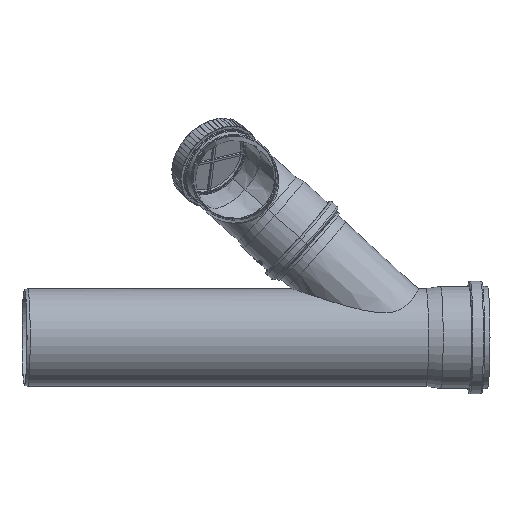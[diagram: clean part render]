
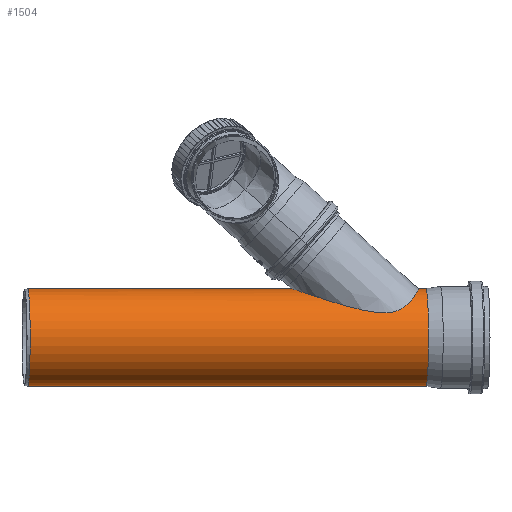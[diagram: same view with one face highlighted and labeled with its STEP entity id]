
A CAD part, front view. The second image highlights one B-rep face of the part: STEP entity #1504.
In plain terms, the highlighted cylindrical face has radius 62.5 mm (diameter 125 mm), a partial arc.
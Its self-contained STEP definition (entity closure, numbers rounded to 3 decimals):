
#667=CARTESIAN_POINT('',(0.,-521.,0.));
#668=DIRECTION('',(0.,1.,0.));
#669=DIRECTION('',(1.,0.,0.));
#670=AXIS2_PLACEMENT_3D('',#667,#668,#669);
#675=CARTESIAN_POINT('',(62.5,-22.313,0.));
#676=CARTESIAN_POINT('',(62.5,-22.313,-3.326));
#677=CARTESIAN_POINT('',(61.986,-22.663,-10.095));
#678=CARTESIAN_POINT('',(59.297,-24.548,-20.727));
#679=CARTESIAN_POINT('',(55.008,-27.799,-30.202));
#680=CARTESIAN_POINT('',(50.08,-32.088,-37.67));
#681=CARTESIAN_POINT('',(45.513,-36.878,-42.993));
#682=CARTESIAN_POINT('',(41.188,-42.709,-47.11));
#683=CARTESIAN_POINT('',(37.641,-49.803,-49.935));
#684=CARTESIAN_POINT('',(35.472,-57.552,-51.468));
#685=CARTESIAN_POINT('',(34.572,-65.864,-52.067));
#686=CARTESIAN_POINT('',(34.708,-74.276,-51.978));
#687=CARTESIAN_POINT('',(35.614,-83.047,-51.367));
#688=CARTESIAN_POINT('',(37.166,-92.289,-50.266));
#689=CARTESIAN_POINT('',(39.303,-102.182,-48.627));
#690=CARTESIAN_POINT('',(41.888,-112.423,-46.433));
#691=CARTESIAN_POINT('',(44.625,-122.251,-43.815));
#692=CARTESIAN_POINT('',(47.219,-131.014,-41.005));
#693=CARTESIAN_POINT('',(49.641,-138.872,-38.039));
#694=CARTESIAN_POINT('',(51.919,-146.053,-34.87));
#695=CARTESIAN_POINT('',(54.043,-152.602,-31.479));
#696=CARTESIAN_POINT('',(55.924,-158.308,-27.998));
#697=CARTESIAN_POINT('',(57.563,-163.22,-24.45));
#698=CARTESIAN_POINT('',(59.016,-167.533,-20.717));
#699=CARTESIAN_POINT('',(60.35,-171.463,-16.475));
#700=CARTESIAN_POINT('',(61.494,-174.811,-11.594));
#701=CARTESIAN_POINT('',(62.307,-177.178,-5.956));
#702=CARTESIAN_POINT('',(62.5,-177.739,-2.026));
#703=CARTESIAN_POINT('',(62.5,-177.739,0.));
#716=DIRECTION('',(0.,1.,0.));
#717=VECTOR('',#716,511.513);
#718=CARTESIAN_POINT('',(-62.5,-521.,0.));
#719=LINE('1107296451',#718,#717);
#723=DIRECTION('',(0.,1.,0.));
#724=VECTOR('',#723,12.826);
#725=CARTESIAN_POINT('',(62.5,-22.313,0.));
#726=LINE('1107296392',#725,#724);
#766=DIRECTION('',(0.,1.,0.));
#767=VECTOR('',#766,343.261);
#768=CARTESIAN_POINT('',(62.5,-521.,0.));
#769=LINE('1107296453',#768,#767);
#795=CARTESIAN_POINT('',(0.,-9.487,0.));
#796=DIRECTION('',(0.,1.,0.));
#797=DIRECTION('',(1.,0.,0.));
#798=AXIS2_PLACEMENT_3D('',#795,#796,#797);
#1111=CARTESIAN_POINT('',(62.5,-9.487,0.));
#1113=VERTEX_POINT('',#1111);
#1125=CARTESIAN_POINT('',(-62.5,-9.487,0.));
#1127=VERTEX_POINT('',#1125);
#1189=VERTEX_POINT('',#675);
#1190=VERTEX_POINT('',#703);
#1199=CARTESIAN_POINT('',(62.5,-521.,0.));
#1200=CARTESIAN_POINT('',(-62.5,-521.,0.));
#1201=VERTEX_POINT('',#1199);
#1202=VERTEX_POINT('',#1200);
#1486=CARTESIAN_POINT('',(0.,-1053.452,0.));
#1487=DIRECTION('',(0.,1.,0.));
#1488=DIRECTION('',(1.,0.,0.));
#1489=AXIS2_PLACEMENT_3D('',#1486,#1487,#1488);
#1490=CYLINDRICAL_SURFACE('284',#1489,62.5);
#1491=ORIENTED_EDGE('1107296447',*,*,#1476,.F.);
#1493=ORIENTED_EDGE('1107296453',*,*,#1492,.T.);
#1495=ORIENTED_EDGE('1107296353',*,*,#1494,.F.);
#1497=ORIENTED_EDGE('1107296392',*,*,#1496,.T.);
#1499=ORIENTED_EDGE('287',*,*,#1498,.T.);
#1501=ORIENTED_EDGE('1107296451',*,*,#1500,.F.);
#1502=EDGE_LOOP('284',(#1491,#1493,#1495,#1497,#1499,#1501));
#1503=FACE_OUTER_BOUND('284',#1502,.F.);
#671=CIRCLE('1107296447',#670,62.5);
#704=B_SPLINE_CURVE_WITH_KNOTS('1107296353',3,(#675,#676,#677,#678,#679,#680,
#681,#682,#683,#684,#685,#686,#687,#688,#689,#690,#691,#692,#693,#694,#695,#696,
#697,#698,#699,#700,#701,#702,#703),.UNSPECIFIED.,.F.,.F.,(4,1,1,1,1,1,1,1,1,1,
1,1,1,1,1,1,1,1,1,1,1,1,1,1,1,1,4),(0.,0.038,0.077,
0.115,0.154,0.192,0.231,
0.269,0.308,0.346,0.385,
0.423,0.462,0.5,0.538,0.577,
0.615,0.654,0.692,0.731,
0.769,0.808,0.846,0.885,
0.923,0.962,1.),.UNSPECIFIED.);
#799=CIRCLE('287',#798,62.5);
#1476=EDGE_CURVE('1107296447',#1201,#1202,#671,.T.);
#1492=EDGE_CURVE('1107296453',#1201,#1190,#769,.T.);
#1494=EDGE_CURVE('1107296353',#1189,#1190,#704,.T.);
#1496=EDGE_CURVE('1107296392',#1189,#1113,#726,.T.);
#1498=EDGE_CURVE('287',#1113,#1127,#799,.T.);
#1500=EDGE_CURVE('1107296451',#1202,#1127,#719,.T.);
#1504=ADVANCED_FACE('284',(#1503),#1490,.T.);
